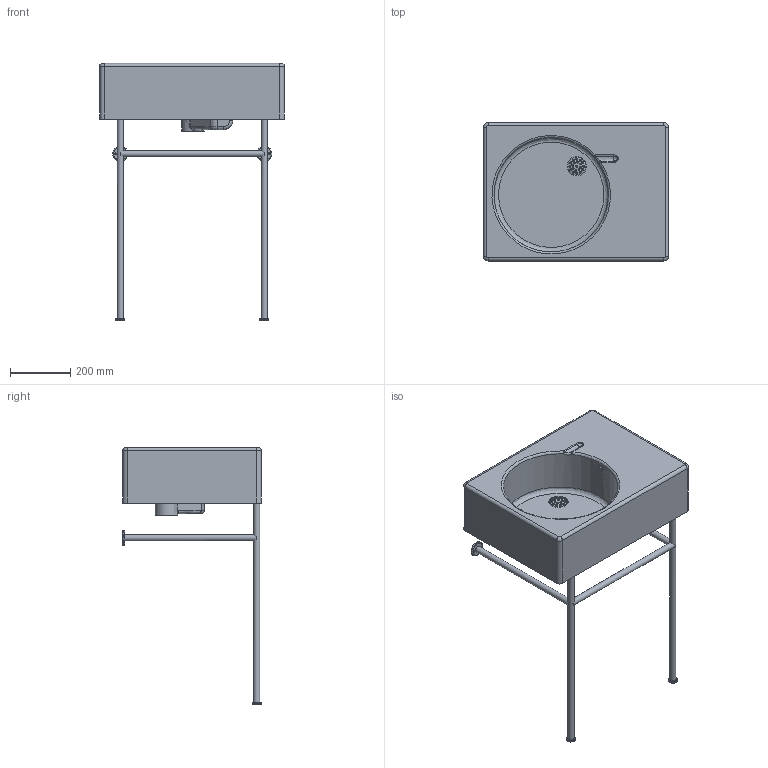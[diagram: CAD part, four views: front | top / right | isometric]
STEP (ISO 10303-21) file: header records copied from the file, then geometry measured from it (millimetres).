
FILE_DESCRIPTION((''),'2;1');
FILE_NAME('C:\Dokumente und Einstellungen\Huebner\Eigene Dateien\PRIVAT3\3D\DESIGN VARIATIONEN\DES_VAR_STEP\068460_0030591.stp','2008-02-05T11:58:18',('Huebner'),(''),'Autodesk Inventor 11','Autodesk Inventor 11','');
FILE_SCHEMA(('AUTOMOTIVE_DESIGN { 1 0 10303 214 1 1 1 1 }'));
Length unit declared in the file: millimetre
Products named in the file (7): 068460_0030591; 068460; 0030591; Rohr21_670; Rohr21_458; Rohr21_439; Stopfen._068560
Assembly tree (8 placements, depth 3):
  068460_0030591
    068460
    0030591
      Rohr21_670  x2
      Rohr21_458
      Rohr21_439  x2
    Stopfen._068560
Bounding box: 615 x 460 x 855 mm (x, y, z)
Volume: 14139640.4 mm3; surface area: 1901726.4 mm2
Topology: 7 solids, 7 shells, 209 faces, 512 edges, 319 vertices
Faces by surface type: bspline 128, cylinder 43, plane 28, torus 10
Full cylindrical faces by diameter (mm): 5 x21, 6 x4, 21 x5, 30 x2, 50 x2, 60 x1
Entity records: 20755 total; most frequent: CARTESIAN_POINT 16623, ORIENTED_EDGE 832, DIRECTION 708, EDGE_CURVE 416, EDGE_LOOP 291, AXIS2_PLACEMENT_3D 289, VERTEX_POINT 275, CIRCLE 207
